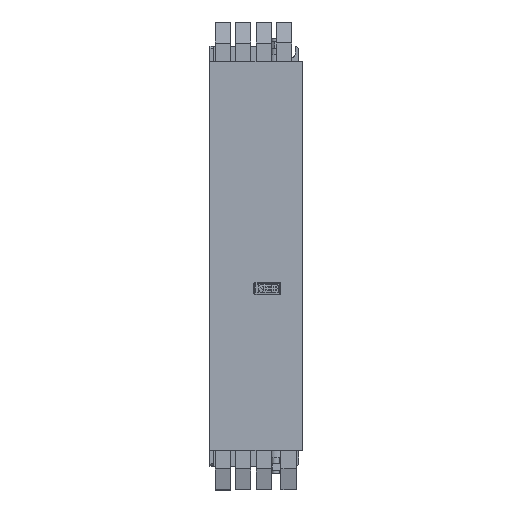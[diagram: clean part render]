
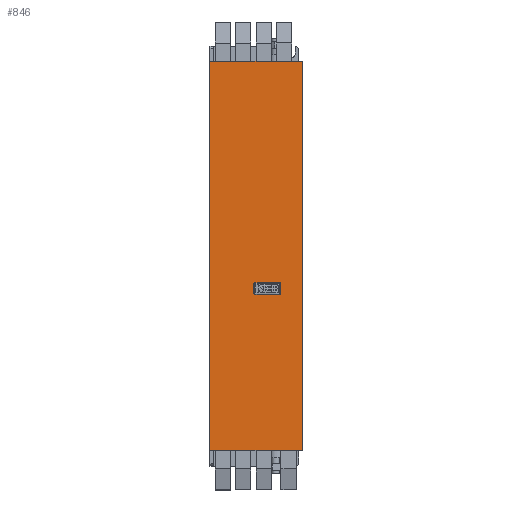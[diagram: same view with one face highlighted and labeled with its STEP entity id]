
A CAD part, top view. The second image highlights one B-rep face of the part: STEP entity #846.
In plain terms, the highlighted planar face has unit normal (0, 0, 1).
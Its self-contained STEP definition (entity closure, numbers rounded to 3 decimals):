
#89 = ORIENTED_EDGE ( 'NONE', *, *, #7251, .F. ) ;
#112 = EDGE_CURVE ( 'NONE', #1494, #6026, #8457, .T. ) ;
#264 = ORIENTED_EDGE ( 'NONE', *, *, #4847, .F. ) ;
#290 = DIRECTION ( 'NONE',  ( -1., 0., 0. ) ) ;
#319 = VECTOR ( 'NONE', #1087, 1000. ) ;
#328 = VERTEX_POINT ( 'NONE', #5076 ) ;
#338 = ORIENTED_EDGE ( 'NONE', *, *, #4408, .F. ) ;
#562 = CARTESIAN_POINT ( 'NONE',  ( 69., -37., 240. ) ) ;
#774 = VERTEX_POINT ( 'NONE', #8376 ) ;
#846 = ADVANCED_FACE ( 'NONE', ( #5178, #5990 ), #1918, .F. ) ;
#883 = DIRECTION ( 'NONE',  ( 0., 0., 1. ) ) ;
#908 = CARTESIAN_POINT ( 'NONE',  ( 0., -190., 240. ) ) ;
#1031 = VECTOR ( 'NONE', #2343, 1000. ) ;
#1087 = DIRECTION ( 'NONE',  ( -1., 0., 0. ) ) ;
#1242 = DIRECTION ( 'NONE',  ( 0., 0., -1. ) ) ;
#1269 = LINE ( 'NONE', #7248, #1295 ) ;
#1295 = VECTOR ( 'NONE', #3844, 1000. ) ;
#1430 = AXIS2_PLACEMENT_3D ( 'NONE', #3323, #6564, #5905 ) ;
#1460 = CIRCLE ( 'NONE', #5895, 1. ) ;
#1463 = CARTESIAN_POINT ( 'NONE',  ( 43., -187., 240. ) ) ;
#1494 = VERTEX_POINT ( 'NONE', #6852 ) ;
#1649 = VERTEX_POINT ( 'NONE', #8263 ) ;
#1918 = PLANE ( 'NONE',  #6741 ) ;
#2224 = ORIENTED_EDGE ( 'NONE', *, *, #4550, .F. ) ;
#2343 = DIRECTION ( 'NONE',  ( 0., -1., 0. ) ) ;
#2351 = DIRECTION ( 'NONE',  ( 0., 1., 0. ) ) ;
#2563 = DIRECTION ( 'NONE',  ( 0., 1., 0. ) ) ;
#2697 = AXIS2_PLACEMENT_3D ( 'NONE', #8422, #883, #2351 ) ;
#2841 = EDGE_CURVE ( 'NONE', #3894, #1649, #6056, .T. ) ;
#2944 = DIRECTION ( 'NONE',  ( 0., 1., 0. ) ) ;
#3120 = VECTOR ( 'NONE', #2563, 1000. ) ;
#3220 = CARTESIAN_POINT ( 'NONE',  ( 44., -38., 240. ) ) ;
#3323 = CARTESIAN_POINT ( 'NONE',  ( 44., -37., 240. ) ) ;
#3483 = CARTESIAN_POINT ( 'NONE',  ( 90., 190., 240. ) ) ;
#3537 = DIRECTION ( 'NONE',  ( -1., 0., 0. ) ) ;
#3572 = VERTEX_POINT ( 'NONE', #562 ) ;
#3596 = EDGE_CURVE ( 'NONE', #4184, #328, #7386, .T. ) ;
#3720 = AXIS2_PLACEMENT_3D ( 'NONE', #5776, #4997, #5091 ) ;
#3732 = VECTOR ( 'NONE', #7290, 1000. ) ;
#3761 = LINE ( 'NONE', #3891, #319 ) ;
#3794 = VERTEX_POINT ( 'NONE', #8495 ) ;
#3810 = CARTESIAN_POINT ( 'NONE',  ( 0., -187., 240. ) ) ;
#3817 = CARTESIAN_POINT ( 'NONE',  ( 90., -187., 240. ) ) ;
#3844 = DIRECTION ( 'NONE',  ( 0., -1., 0. ) ) ;
#3891 = CARTESIAN_POINT ( 'NONE',  ( 90., -190., 240. ) ) ;
#3894 = VERTEX_POINT ( 'NONE', #3220 ) ;
#4058 = CARTESIAN_POINT ( 'NONE',  ( 90., -38., 240. ) ) ;
#4184 = VERTEX_POINT ( 'NONE', #908 ) ;
#4212 = ORIENTED_EDGE ( 'NONE', *, *, #6098, .F. ) ;
#4249 = VECTOR ( 'NONE', #7328, 1000. ) ;
#4301 = VECTOR ( 'NONE', #290, 1000. ) ;
#4408 = EDGE_CURVE ( 'NONE', #3794, #1494, #5568, .T. ) ;
#4550 = EDGE_CURVE ( 'NONE', #6026, #3894, #5281, .T. ) ;
#4569 = CARTESIAN_POINT ( 'NONE',  ( 69., -187., 240. ) ) ;
#4847 = EDGE_CURVE ( 'NONE', #6125, #7500, #1269, .T. ) ;
#4997 = DIRECTION ( 'NONE',  ( 0., 0., 1. ) ) ;
#5058 = ORIENTED_EDGE ( 'NONE', *, *, #3596, .F. ) ;
#5076 = CARTESIAN_POINT ( 'NONE',  ( 0., 190., 240. ) ) ;
#5091 = DIRECTION ( 'NONE',  ( 0., 1., 0. ) ) ;
#5178 = FACE_OUTER_BOUND ( 'NONE', #8341, .T. ) ;
#5261 = DIRECTION ( 'NONE',  ( 0., -1., 0. ) ) ;
#5271 = ORIENTED_EDGE ( 'NONE', *, *, #6258, .F. ) ;
#5281 = CIRCLE ( 'NONE', #1430, 1. ) ;
#5452 = CIRCLE ( 'NONE', #3720, 1. ) ;
#5568 = CIRCLE ( 'NONE', #2697, 1. ) ;
#5587 = LINE ( 'NONE', #4569, #3732 ) ;
#5692 = EDGE_CURVE ( 'NONE', #774, #5763, #5452, .T. ) ;
#5751 = LINE ( 'NONE', #6591, #4301 ) ;
#5763 = VERTEX_POINT ( 'NONE', #7005 ) ;
#5776 = CARTESIAN_POINT ( 'NONE',  ( 68., -27., 240. ) ) ;
#5842 = EDGE_LOOP ( 'NONE', ( #5966, #7242, #4212, #5898, #2224, #7739, #338, #5271 ) ) ;
#5845 = CARTESIAN_POINT ( 'NONE',  ( 43., -37., 240. ) ) ;
#5895 = AXIS2_PLACEMENT_3D ( 'NONE', #6853, #7733, #2944 ) ;
#5898 = ORIENTED_EDGE ( 'NONE', *, *, #2841, .F. ) ;
#5905 = DIRECTION ( 'NONE',  ( 0., 1., 0. ) ) ;
#5966 = ORIENTED_EDGE ( 'NONE', *, *, #5692, .F. ) ;
#5990 = FACE_BOUND ( 'NONE', #5842, .T. ) ;
#6026 = VERTEX_POINT ( 'NONE', #5845 ) ;
#6056 = LINE ( 'NONE', #4058, #4249 ) ;
#6098 = EDGE_CURVE ( 'NONE', #1649, #3572, #1460, .T. ) ;
#6125 = VERTEX_POINT ( 'NONE', #3483 ) ;
#6258 = EDGE_CURVE ( 'NONE', #5763, #3794, #5751, .T. ) ;
#6374 = EDGE_CURVE ( 'NONE', #3572, #774, #5587, .T. ) ;
#6564 = DIRECTION ( 'NONE',  ( 0., 0., 1. ) ) ;
#6591 = CARTESIAN_POINT ( 'NONE',  ( 90., -26., 240. ) ) ;
#6741 = AXIS2_PLACEMENT_3D ( 'NONE', #3817, #1242, #5261 ) ;
#6852 = CARTESIAN_POINT ( 'NONE',  ( 43., -27., 240. ) ) ;
#6853 = CARTESIAN_POINT ( 'NONE',  ( 68., -37., 240. ) ) ;
#7005 = CARTESIAN_POINT ( 'NONE',  ( 68., -26., 240. ) ) ;
#7242 = ORIENTED_EDGE ( 'NONE', *, *, #6374, .F. ) ;
#7248 = CARTESIAN_POINT ( 'NONE',  ( 90., 190., 240. ) ) ;
#7251 = EDGE_CURVE ( 'NONE', #7500, #4184, #3761, .T. ) ;
#7290 = DIRECTION ( 'NONE',  ( 0., 1., 0. ) ) ;
#7328 = DIRECTION ( 'NONE',  ( 1., 0., 0. ) ) ;
#7337 = CARTESIAN_POINT ( 'NONE',  ( 90., -190., 240. ) ) ;
#7386 = LINE ( 'NONE', #3810, #3120 ) ;
#7500 = VERTEX_POINT ( 'NONE', #7337 ) ;
#7733 = DIRECTION ( 'NONE',  ( 0., 0., 1. ) ) ;
#7739 = ORIENTED_EDGE ( 'NONE', *, *, #112, .F. ) ;
#7773 = LINE ( 'NONE', #8320, #7863 ) ;
#7863 = VECTOR ( 'NONE', #3537, 1000. ) ;
#8048 = ORIENTED_EDGE ( 'NONE', *, *, #8088, .T. ) ;
#8088 = EDGE_CURVE ( 'NONE', #6125, #328, #7773, .T. ) ;
#8263 = CARTESIAN_POINT ( 'NONE',  ( 68., -38., 240. ) ) ;
#8320 = CARTESIAN_POINT ( 'NONE',  ( 90., 190., 240. ) ) ;
#8341 = EDGE_LOOP ( 'NONE', ( #8048, #5058, #89, #264 ) ) ;
#8376 = CARTESIAN_POINT ( 'NONE',  ( 69., -27., 240. ) ) ;
#8422 = CARTESIAN_POINT ( 'NONE',  ( 44., -27., 240. ) ) ;
#8457 = LINE ( 'NONE', #1463, #1031 ) ;
#8495 = CARTESIAN_POINT ( 'NONE',  ( 44., -26., 240. ) ) ;
